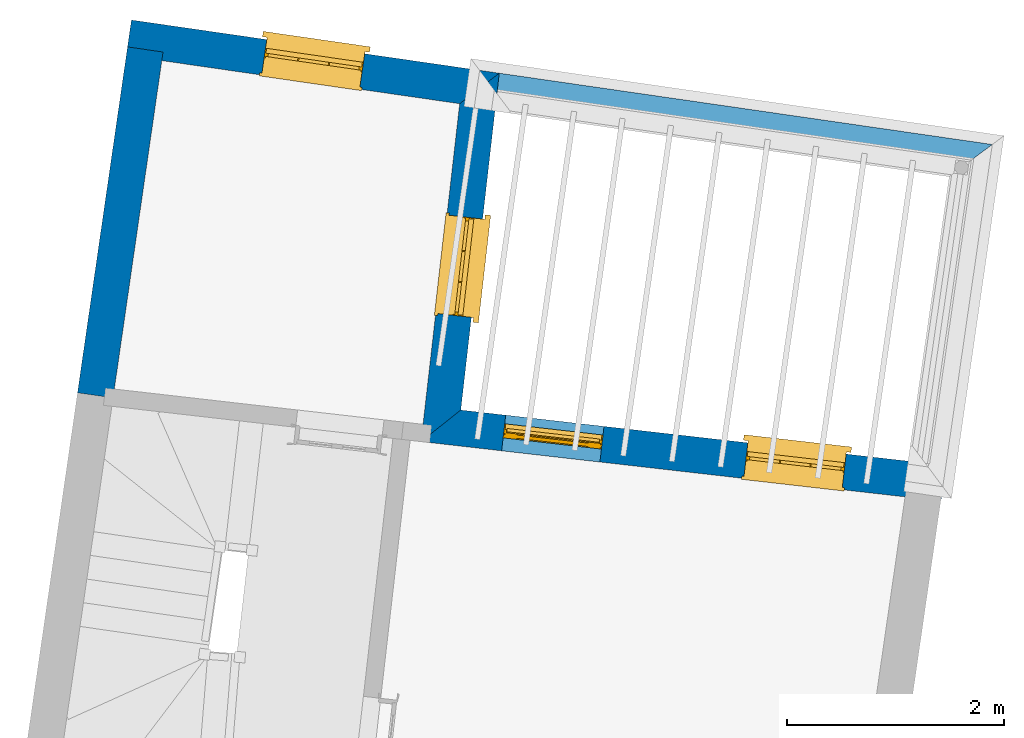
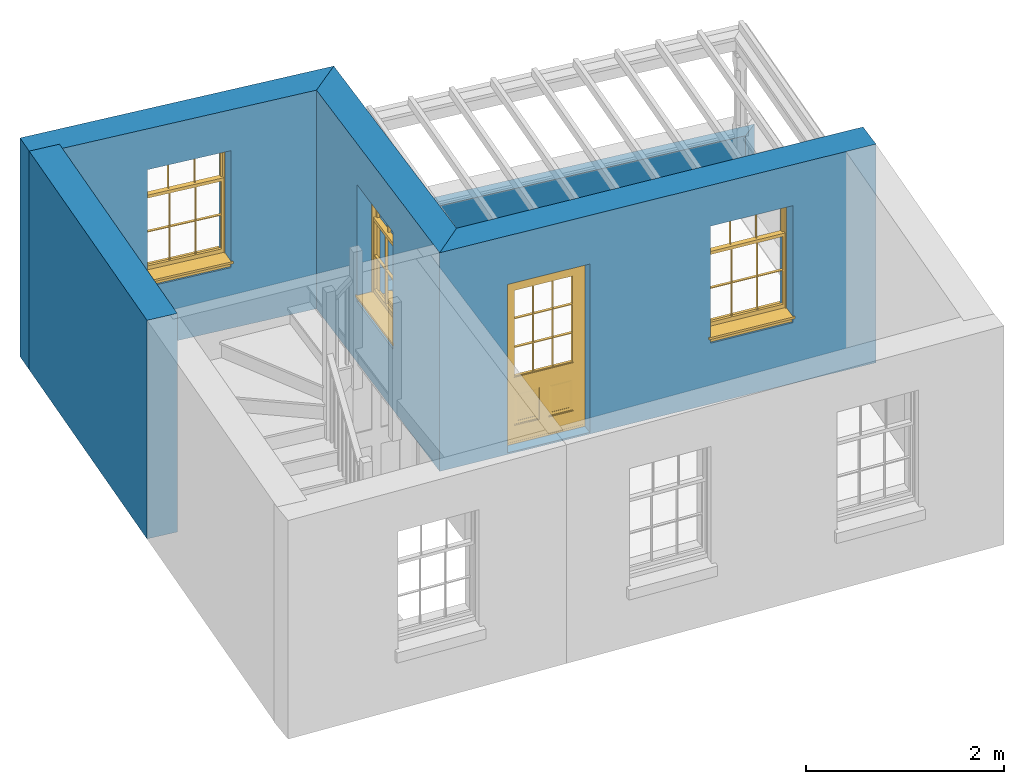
# One storey, part 3 of 5: 5 walls, 3 windows, 1 door, 4 openings.
"""IFC4 building model written with IfcOpenShell, lengths in metres."""

from ifc_helpers import new_model, si_unit, frame, origin, origin_with_axes, place, context, subcontext, project, spatial, polyline, outline, extrude, clip, halfspace, faceted_brep, source, transform, mapped, material, layer, layer_set, layer_usage, material_profile, profile_set, profile_usage, type_object, type_shapes, element, fill, save


model = new_model("IFC4")

# Units and contexts
model_context = context("Model", 3, world=origin_with_axes())
body_context = subcontext(model_context, "Body", "Model", "MODEL_VIEW")
ifc_project = project(units=[si_unit("PLANEANGLEUNIT", "RADIAN"), si_unit("MASSUNIT", "GRAM", prefix="KILO"), si_unit("FORCEUNIT", "NEWTON", prefix="KILO"), si_unit("LENGTHUNIT", "METRE"), si_unit("AREAUNIT", "SQUARE_METRE"), si_unit("VOLUMEUNIT", "CUBIC_METRE")], contexts=[model_context, model_context])

# Sites, building, storey
site_1_placement = place(None, origin_with_axes())
site_1 = spatial("IfcSite", under=ifc_project, at=site_1_placement, Name="Tamar")
site_2_placement = place(site_1_placement, origin_with_axes())
site_2 = spatial("IfcSite", under=site_1, at=site_2_placement, Name="Site plot-31", CompositionType="ELEMENT")
building_placement = place(None, origin_with_axes())
building = spatial("IfcBuilding", under=site_2, at=building_placement, Name="Building plot-31", CompositionType="ELEMENT")
storey_placement = place(None, frame((0.0, 0.0, 28.65), z_axis=(0.0, 0.0, 1.0), x_axis=(1.0, 0.0, 0.0)))
storey = spatial("IfcBuildingStorey", under=building, at=storey_placement, Name="plot-31 1", CompositionType="ELEMENT", Elevation=28.65)

# Wall, openings, door, window
ifc_material_1 = material(Name="Masonry")
ifc_layer_1 = layer(ifc_material_1, 0.33, ventilated=False)
ifc_layer_set_1 = layer_set([ifc_layer_1], Name="exterior_0.08_0.25")
ifc_layer_usage_1 = layer_usage(ifc_layer_set_1, "AXIS2", "POSITIVE", -0.25)
wall_type_1 = type_object("IfcWallType", Name="exterior_0.08_0.25", PredefinedType="SOLIDWALL", material=ifc_layer_set_1)
wall_1_placement = place(storey_placement, frame((300.42164854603, 260.541234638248, 0.0), z_axis=(0.0, 0.0, 1.0), x_axis=(-0.993538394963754, 0.113496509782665, 0.0)))
wall_1 = element("IfcWall", 1, at=wall_1_placement, inside=storey, type_object=wall_type_1, material=ifc_layer_usage_1, Name="exterior", context=body_context, shape_type="SweptSolid", body=[
    extrude(outline(polyline([(-0.249999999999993, 0.0800000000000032), (-0.249999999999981, -0.249999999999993), (4.2331522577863, -0.249999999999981), (4.56315225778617, 0.0800000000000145), (-0.249999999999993, 0.0800000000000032)])), origin_with_axes(), (0.0, 0.0, 1.0), 2.7),
])
opening_1_placement = place(wall_1_placement, frame((0.665788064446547, 0.0, 0.75)))
opening_1 = element("IfcOpeningElement", 2, at=opening_1_placement, cuts=wall_1, Name="My Opening", ObjectType="Opening", context=body_context, shape_type="SweptSolid", body=[
    extrude(outline(polyline([(0.0, -0.27000000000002), (0.909999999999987, -0.270000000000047), (0.910000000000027, 1.09999999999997), (3.97459842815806e-14, 1.1), (0.0, -0.27000000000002)])), origin_with_axes(), (0.0, 0.0, 1.0), 1.445),
])
opening_2_placement = place(wall_1_placement, frame((2.90736419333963, 0.0, 0.0199999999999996)))
opening_2 = element("IfcOpeningElement", 3, at=opening_2_placement, cuts=wall_1, Name="My Opening", ObjectType="Opening", context=body_context, shape_type="SweptSolid", body=[
    extrude(outline(polyline([(0.0, -0.269999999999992), (0.909999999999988, -0.270000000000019), (0.910000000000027, 1.1), (4.04121180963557e-14, 1.10000000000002), (0.0, -0.269999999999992)])), origin_with_axes(), (0.0, 0.0, 1.0), 2.08),
])
door_type = type_object("IfcDoorType", Name="door_panelled", OperationType="SINGLE_SWING_LEFT", PredefinedType="NOTDEFINED")
shared_shape_1 = source(origin(), body_context, "Body", "Brep", [
    faceted_brep([(0.545, 0.195, 0.265), (0.745, 0.195, 0.265), (0.745, 0.2, 0.265), (0.545, 0.2, 0.265), (0.745, 0.2, 0.58), (0.545, 0.2, 0.58), (0.545, 0.195, 0.58), (0.515, 0.19, 0.235), (0.775, 0.19, 0.235), (0.745, 0.195, 0.58), (0.515, 0.19, 0.61), (0.515, 0.185, 0.235), (0.775, 0.185, 0.235), (0.775, 0.19, 0.61), (0.515, 0.185, 0.61), (0.785, 0.185, 0.225), (0.505, 0.185, 0.225), (0.775, 0.185, 0.61), (0.505, 0.185, 0.62), (0.785, 0.185, 0.62), (0.505, 0.18, 0.225), (0.785, 0.18, 0.225), (0.505, 0.18, 0.62), (0.785, 0.18, 0.62), (0.883, 0.18, 0.075), (0.898, 0.18, 0.075), (0.405, 0.18, 0.62), (0.405, 0.18, 0.225), (0.027, 0.18, 0.075), (0.785, 0.18, 0.82), (0.125, 0.18, 0.82), (0.405, 0.185, 0.62), (0.405, 0.185, 0.225), (0.898, 0.18, 2.068), (0.027, 0.17, 0.075), (0.883, 0.17, 0.075), (0.125, 0.18, 0.225), (0.012, 0.18, 0.075), (0.785, 0.19, 0.82), (0.125, 0.19, 0.82), (0.125, 0.18, 0.62), (0.125, 0.185, 0.62), (0.395, 0.185, 0.61), (0.395, 0.185, 0.235), (0.125, 0.185, 0.225), (0.785, 0.18, 1.895), (0.027, 0.14, 0.045), (0.883, 0.14, 0.045), (0.558333, 0.19, 0.83), (0.351667, 0.19, 0.83), (0.125, 0.18, 1.895), (0.125, 0.19, 1.895), (0.785, 0.19, 1.895), (0.012, 0.18, 2.068), (0.135, 0.185, 0.61), (0.395, 0.19, 0.61), (0.395, 0.19, 0.235), (0.135, 0.185, 0.235), (0.027, 0.14, 0.027), (0.883, 0.14, 0.027), (0.568333, 0.19, 0.83), (0.558333, 0.22, 0.83), (0.351667, 0.22, 0.83), (0.341667, 0.19, 0.83), (0.135, 0.19, 1.185), (0.135, 0.19, 1.53), (0.775, 0.19, 1.53), (0.775, 0.19, 1.185), (0.135, 0.19, 0.61), (0.365, 0.195, 0.58), (0.365, 0.195, 0.265), (0.135, 0.19, 0.235), (0.568333, 0.19, 1.175), (0.558333, 0.19, 1.175), (0.775, 0.19, 0.83), (0.558333, 0.22, 1.175), (0.785, 0.22, 0.82), (0.125, 0.22, 0.82), (0.351667, 0.22, 1.175), (0.351667, 0.19, 1.175), (0.341667, 0.19, 1.175), (0.135, 0.19, 0.83), (0.135, 0.19, 1.175), (0.135, 0.22, 1.185), (0.135, 0.22, 1.53), (0.135, 0.19, 1.54), (0.351667, 0.19, 1.885), (0.558333, 0.19, 1.885), (0.775, 0.22, 1.53), (0.775, 0.22, 1.185), (0.775, 0.19, 1.175), (0.775, 0.19, 1.54), (0.165, 0.195, 0.58), (0.365, 0.2, 0.58), (0.365, 0.2, 0.265), (0.165, 0.195, 0.265), (0.568333, 0.22, 0.83), (0.568333, 0.22, 1.175), (0.568333, 0.19, 1.185), (0.558333, 0.19, 1.185), (0.775, 0.22, 0.83), (0.785, 0.23, 0.82), (0.125, 0.23, 0.82), (0.341667, 0.22, 0.83), (0.341667, 0.22, 1.175), (0.351667, 0.19, 1.185), (0.341667, 0.19, 1.185), (0.135, 0.22, 0.83), (0.341667, 0.22, 1.185), (0.125, 0.22, 1.895), (0.341667, 0.22, 1.53), (0.341667, 0.19, 1.53), (0.135, 0.19, 1.885), (0.341667, 0.19, 1.54), (0.341667, 0.19, 1.885), (0.558333, 0.22, 1.885), (0.351667, 0.22, 1.885), (0.568333, 0.19, 1.885), (0.785, 0.22, 1.895), (0.568333, 0.22, 1.185), (0.568333, 0.19, 1.53), (0.568333, 0.22, 1.53), (0.568333, 0.19, 1.54), (0.775, 0.19, 1.885), (0.165, 0.2, 0.58), (0.165, 0.2, 0.265), (0.775, 0.22, 1.175), (0.558333, 0.19, 1.53), (0.351667, 0.22, 1.185), (0.558333, 0.22, 1.185), (0.505, 0.23, 0.62), (0.405, 0.23, 0.62), (0.125, 0.23, 1.895), (0.785, 0.23, 1.895), (0.351667, 0.19, 1.53), (0.135, 0.22, 1.175), (0.135, 0.22, 1.54), (0.341667, 0.22, 1.54), (0.135, 0.22, 1.885), (0.351667, 0.19, 1.54), (0.558333, 0.22, 1.54), (0.558333, 0.19, 1.54), (0.351667, 0.22, 1.54), (0.775, 0.22, 1.54), (0.568333, 0.22, 1.54), (0.775, 0.22, 1.885), (0.558333, 0.22, 1.53), (0.405, 0.23, 0.225), (0.505, 0.23, 0.225), (0.125, 0.23, 0.62), (0.785, 0.23, 0.62), (0.012, 0.23, 2.068), (0.898, 0.23, 2.068), (0.351667, 0.22, 1.53), (0.341667, 0.22, 1.885), (0.568333, 0.22, 1.885), (0.405, 0.225, 0.225), (0.405, 0.225, 0.62), (0.505, 0.225, 0.62), (0.505, 0.225, 0.225), (0.898, 0.23, 0.027), (0.012, 0.23, 0.027), (0.125, 0.225, 0.62), (0.785, 0.225, 0.62), (0.395, 0.225, 0.235), (0.395, 0.225, 0.61), (0.125, 0.23, 0.225), (0.125, 0.225, 0.225), (0.515, 0.225, 0.61), (0.515, 0.225, 0.235), (0.785, 0.23, 0.225), (0.785, 0.225, 0.225), (0.135, 0.225, 0.61), (0.775, 0.225, 0.61), (0.135, 0.225, 0.235), (0.395, 0.22, 0.235), (0.395, 0.22, 0.61), (0.515, 0.22, 0.61), (0.515, 0.22, 0.235), (0.775, 0.225, 0.235), (0.135, 0.22, 0.61), (0.775, 0.22, 0.61), (0.135, 0.22, 0.235), (0.365, 0.215, 0.265), (0.365, 0.215, 0.58), (0.545, 0.215, 0.58), (0.545, 0.215, 0.265), (0.775, 0.22, 0.235), (0.165, 0.215, 0.58), (0.745, 0.215, 0.58), (0.165, 0.215, 0.265), (0.365, 0.21, 0.58), (0.365, 0.21, 0.265), (0.545, 0.21, 0.58), (0.545, 0.21, 0.265), (0.745, 0.215, 0.265), (0.165, 0.21, 0.58), (0.745, 0.21, 0.58), (0.165, 0.21, 0.265), (0.745, 0.21, 0.265), (0.885, 0.178, 0.025), (0.025, 0.178, 0.025), (0.025, 0.15, 0.025), (0.885, 0.15, 0.025), (0.9, 0.23, 0.025), (0.01, 0.23, 0.025), (0.9, 0.178, 0.025), (0.91, 0.23, 0.0), (0.0, 0.23, 0.0), (0.01, 0.178, 0.025), (0.9, 0.178, 2.07), (0.9, 0.23, 2.07), (0.885, 0.178, 2.055), (0.91, 0.23, 2.08), (0.01, 0.23, 2.07), (0.0, 0.23, 2.08), (0.01, 0.178, 2.07), (0.025, 0.178, 2.055), (0.0, 0.1, 2.08), (0.91, 0.1, 2.08), (0.01, 0.1, 2.07), (0.9, 0.1, 2.07), (0.01, 0.15, 2.07), (0.9, 0.15, 2.07), (0.0, 0.1, 0.0), (0.91, 0.1, 0.0), (0.01, 0.1, 0.025), (0.9, 0.1, 0.025), (0.01, 0.15, 0.025), (0.025, 0.15, 2.055), (0.9, 0.15, 0.025), (0.885, 0.15, 2.055), (0.898, 0.18, 0.027), (0.012, 0.18, 0.027), (0.883, 0.18, 0.027), (0.027, 0.18, 0.027)], [[[0, 1, 2, 3]], [[2, 4, 5, 3]], [[0, 3, 5, 6]], [[1, 0, 7, 8]], [[9, 4, 2, 1]], [[9, 6, 5, 4]], [[0, 6, 10, 7]], [[8, 7, 11, 12]], [[8, 13, 9, 1]], [[13, 10, 6, 9]], [[7, 10, 14, 11]], [[15, 12, 11, 16]], [[12, 17, 13, 8]], [[17, 14, 10, 13]], [[18, 16, 11, 14]], [[15, 19, 17, 12]], [[15, 16, 20, 21]], [[14, 17, 19, 18]], [[16, 18, 22, 20]], [[21, 23, 19, 15]], [[24, 25, 21, 20]], [[23, 22, 18, 19]], [[20, 22, 26, 27]], [[23, 21, 25]], [[28, 24, 20, 27]], [[22, 23, 29]], [[29, 30, 26, 22]], [[27, 26, 31, 32]], [[23, 25, 33, 29]], [[34, 35, 24, 28]], [[28, 27, 36, 37]], [[38, 39, 30, 29]], [[26, 30, 40]], [[26, 40, 41, 31]], [[42, 43, 32, 31]], [[32, 44, 36, 27]], [[33, 45, 29]], [[46, 47, 35, 34]], [[36, 40, 37]], [[39, 38, 48, 49]], [[50, 30, 39, 51]], [[29, 45, 52, 38]], [[53, 37, 40, 30]], [[44, 41, 40, 36]], [[31, 41, 54, 42]], [[43, 42, 55, 56]], [[57, 44, 32, 43]], [[50, 45, 33, 53]], [[47, 46, 58, 59]], [[60, 48, 38]], [[49, 48, 61, 62]], [[49, 63, 39]], [[50, 53, 30]], [[51, 39, 64, 65]], [[45, 50, 51, 52]], [[66, 67, 38, 52]], [[57, 54, 41, 44]], [[42, 54, 68, 55]], [[56, 55, 69, 70]], [[56, 71, 57, 43]], [[60, 72, 73, 48]], [[60, 38, 74]], [[48, 73, 75, 61]], [[76, 77, 62, 61]], [[62, 78, 79, 49]], [[49, 79, 80, 63]], [[63, 81, 39]], [[82, 64, 39]], [[65, 64, 83, 84]], [[85, 51, 65]], [[52, 51, 86, 87]], [[88, 89, 67, 66]], [[90, 38, 67]], [[91, 66, 52]], [[71, 68, 54, 57]], [[55, 68, 92, 69]], [[69, 93, 94, 70]], [[70, 95, 71, 56]], [[96, 97, 72, 60]], [[73, 72, 98, 99]], [[74, 38, 90]], [[100, 96, 60, 74]], [[75, 73, 79, 78]], [[61, 75, 97, 96]], [[101, 102, 77, 76]], [[77, 103, 62]], [[96, 76, 61]], [[103, 104, 78, 62]], [[80, 79, 105, 106]], [[63, 80, 104, 103]], [[81, 63, 103, 107]], [[81, 82, 39]], [[106, 64, 82, 80]], [[106, 108, 83, 64]], [[84, 83, 77, 109]], [[110, 111, 65, 84]], [[112, 51, 85]], [[113, 85, 65, 111]], [[114, 86, 51]], [[115, 87, 86, 116]], [[117, 52, 87]], [[118, 76, 89, 88]], [[119, 98, 67, 89]], [[120, 121, 88, 66]], [[67, 98, 72, 90]], [[91, 122, 120, 66]], [[91, 52, 123]], [[95, 92, 68, 71]], [[69, 92, 124, 93]], [[94, 93, 124, 125]], [[94, 125, 95, 70]], [[72, 97, 126, 90]], [[127, 99, 98, 120]], [[99, 105, 79, 73]], [[74, 90, 126, 100]], [[96, 100, 76]], [[128, 129, 75, 78]], [[97, 75, 129, 119]], [[130, 131, 102, 101]], [[109, 77, 102, 132]], [[133, 101, 76, 118]], [[77, 107, 103]], [[78, 104, 108, 128]], [[111, 106, 105, 134]], [[104, 80, 82, 135]], [[107, 135, 82, 81]], [[110, 108, 106, 111]], [[104, 135, 83, 108]], [[83, 135, 77]], [[136, 84, 109]], [[110, 84, 136, 137]], [[114, 51, 112]], [[85, 136, 138, 112]], [[113, 137, 136, 85]], [[111, 134, 139, 113]], [[86, 114, 113, 139]], [[140, 141, 87, 115]], [[139, 142, 116, 86]], [[109, 118, 115, 116]], [[117, 123, 52]], [[117, 87, 141, 122]], [[126, 89, 76]], [[143, 118, 88]], [[120, 98, 119, 121]], [[119, 89, 126, 97]], [[144, 143, 88, 121]], [[144, 122, 91, 143]], [[127, 120, 122, 141]], [[143, 91, 123, 145]], [[124, 92, 95, 125]], [[146, 129, 99, 127]], [[99, 129, 128, 105]], [[100, 126, 76]], [[121, 119, 129, 146]], [[147, 131, 130, 148]], [[131, 149, 102]], [[130, 101, 150]], [[102, 151, 132]], [[118, 109, 132, 133]], [[101, 133, 152]], [[107, 77, 135]], [[153, 128, 108, 110]], [[134, 105, 128, 153]], [[109, 138, 136]], [[153, 110, 137, 142]], [[154, 114, 112, 138]], [[137, 113, 114, 154]], [[141, 139, 134, 127]], [[141, 140, 142, 139]], [[144, 140, 115, 155]], [[142, 137, 154, 116]], [[155, 115, 118]], [[116, 154, 109]], [[117, 155, 145, 123]], [[122, 144, 155, 117]], [[143, 145, 118]], [[121, 146, 140, 144]], [[146, 127, 134, 153]], [[156, 157, 131, 147]], [[148, 130, 158, 159]], [[148, 160, 161, 147]], [[157, 162, 149, 131]], [[161, 151, 102, 149]], [[101, 152, 160, 150]], [[163, 158, 130, 150]], [[151, 152, 133, 132]], [[154, 138, 109]], [[142, 140, 146, 153]], [[145, 155, 118]], [[157, 156, 164, 165]], [[147, 166, 167, 156]], [[168, 169, 159, 158]], [[170, 148, 159, 171]], [[148, 170, 160]], [[166, 147, 161]], [[172, 162, 157, 165]], [[166, 149, 162, 167]], [[166, 161, 149]], [[150, 160, 170]], [[163, 173, 168, 158]], [[171, 163, 150, 170]], [[174, 164, 156, 167]], [[175, 176, 165, 164]], [[169, 168, 177, 178]], [[171, 159, 169, 179]], [[167, 162, 172, 174]], [[176, 180, 172, 165]], [[179, 173, 163, 171]], [[181, 177, 168, 173]], [[164, 174, 182, 175]], [[183, 184, 176, 175]], [[178, 177, 185, 186]], [[179, 169, 178, 187]], [[174, 172, 180, 182]], [[184, 188, 180, 176]], [[187, 181, 173, 179]], [[189, 185, 177, 181]], [[175, 182, 190, 183]], [[191, 184, 183, 192]], [[185, 193, 194, 186]], [[187, 178, 186, 195]], [[182, 180, 188, 190]], [[191, 196, 188, 184]], [[195, 189, 181, 187]], [[197, 193, 185, 189]], [[183, 190, 198, 192]], [[198, 196, 191, 192]], [[194, 193, 197, 199]], [[195, 186, 194, 199]], [[188, 196, 198, 190]], [[197, 189, 195, 199]], [[200, 201, 202, 203]], [[201, 200, 204, 205]], [[206, 204, 200]], [[204, 207, 208, 205]], [[209, 201, 205]], [[210, 211, 204, 206]], [[206, 200, 212, 210]], [[211, 213, 207, 204]], [[214, 205, 208, 215]], [[216, 217, 201, 209]], [[205, 214, 216, 209]], [[216, 214, 211, 210]], [[210, 212, 217, 216]], [[214, 215, 213, 211]], [[218, 219, 213, 215]], [[219, 218, 220, 221]], [[221, 220, 222, 223]], [[215, 208, 224, 218]], [[225, 224, 208, 207]], [[224, 226, 220, 218]], [[224, 225, 227, 226]], [[219, 225, 207, 213]], [[228, 222, 220, 226]], [[219, 221, 227, 225]], [[226, 227, 203, 202]], [[202, 229, 222, 228]], [[228, 226, 202]], [[227, 221, 223, 230]], [[230, 203, 227]], [[217, 229, 202, 201]], [[231, 223, 222, 229]], [[230, 223, 231, 203]], [[231, 229, 217, 212]], [[212, 200, 203, 231]], [[33, 152, 151, 53]], [[25, 160, 152, 33]], [[161, 37, 53, 151]], [[232, 160, 25]], [[161, 233, 37]], [[160, 232, 234]], [[24, 234, 232, 25]], [[233, 161, 235]], [[37, 233, 235, 28]], [[161, 160, 234, 235]], [[35, 47, 234, 24]], [[28, 235, 46, 34]], [[58, 235, 234, 59]], [[59, 234, 47]], [[58, 46, 235]]]),
])
type_shapes(door_type, [shared_shape_1])
door_placement = place(storey_placement, frame((297.563714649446, 261.139465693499, 0.0199999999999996), z_axis=(0.0, 0.0, 1.0), x_axis=(-0.904119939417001, 0.10328182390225, 0.0)))
door = element("IfcDoor", 4, at=door_placement, inside=storey, type_object=door_type, Name="bedroom outside door", OverallHeight=2.08, OverallWidth=0.91, context=body_context, shape_type="MappedRepresentation", body=[
    mapped(shared_shape_1, transform((0.0, 0.0, 0.0), scale=1.0)),
])
fill(opening_2, door)
window_type = type_object("IfcWindowType", Name="sash_shorter", PartitioningType="DOUBLE_PANEL_HORIZONTAL", PredefinedType="NOTDEFINED")
shared_shape_2 = source(origin(), body_context, "Body", "Brep", [
    faceted_brep([(0.876875, 0.145, 0.999097), (0.876875, 0.145, 1.411875), (0.9, 0.145, 1.435), (0.033125, 0.145, 1.411875), (0.033125, 0.145, 0.999097), (0.01, 0.145, 1.435), (0.033125, 0.115, 1.411875), (0.01, 0.115, 1.435), (0.033125, 0.115, 0.999097), (0.876875, 0.115, 1.411875), (0.876875, 0.115, 0.999097), (0.9, 0.115, 1.435), (0.033125, 0.145, 0.960972), (0.01, 0.145, 0.960972), (0.033125, 0.145, 0.548195), (0.876875, 0.145, 0.960972), (0.876875, 0.145, 0.548195), (0.9, 0.145, 0.960972), (0.876875, 0.145, 0.538195), (0.876875, 0.145, 0.125417), (0.9, 0.145, 0.077167), (0.033125, 0.145, 0.125417), (0.033125, 0.145, 0.538195), (0.01, 0.145, 0.077167), (0.9, 0.115, 0.960972), (0.01, 0.115, 0.960972), (-0.0425, 0.0, 0.01), (-0.0425, -0.05, 0.001667), (0.0, 0.0, 0.01), (0.9525, 0.0, 0.01), (0.91, 0.0, 0.01), (0.9525, -0.05, 0.001667), (-0.02, 0.33, 0.077167), (0.0, 0.33, 0.077167), (-0.02, 0.36, 0.077167), (0.0, 0.19, 0.077167), (0.01, 0.19, 0.077167), (0.91, 0.19, 0.077167), (0.91, 0.33, 0.077167), (0.9, 0.19, 0.077167), (0.93, 0.33, 0.077167), (0.93, 0.36, 0.077167), (0.01, 0.145, 0.999097), (0.01, 0.175, 0.999097), (0.9, 0.145, 0.999097), (0.9, 0.175, 0.999097), (0.876875, 0.175, 0.125417), (0.876875, 0.175, 0.538195), (0.9, 0.175, 0.077167), (0.876875, 0.175, 0.548195), (0.876875, 0.175, 0.960972), (0.033125, 0.175, 0.125417), (0.01, 0.175, 0.077167), (0.033125, 0.175, 0.538195), (0.033125, 0.175, 0.960972), (0.033125, 0.175, 0.548195), (-0.02, 0.33, 0.052167), (-0.02, 0.36, 0.052167), (0.93, 0.36, 0.052167), (0.93, 0.33, 0.052167), (0.91, 0.33, 0.052167), (0.0, 0.33, 0.052167), (0.91, 0.1, 0.026667), (0.0, 0.1, 0.026667), (-0.0425, -0.05, -0.123333), (0.9525, -0.05, -0.123333), (-0.0425, 0.0, -0.123333), (0.9525, 0.0, -0.123333), (0.01, 0.19, 1.435), (0.9, 0.19, 1.435), (0.0, 0.19, 1.445), (0.91, 0.19, 1.445), (0.01, 0.1, 0.077167), (0.9, 0.1, 0.077167), (0.592292, 0.145, 0.125417), (0.592292, 0.175, 0.125417), (0.317708, 0.175, 0.125417), (0.317708, 0.145, 0.125417), (0.592292, 0.145, 0.548195), (0.317708, 0.145, 0.548195), (0.317708, 0.145, 0.538195), (0.592292, 0.145, 0.538195), (0.592292, 0.175, 0.548195), (0.317708, 0.175, 0.548195), (0.602292, 0.175, 0.548195), (0.602292, 0.145, 0.548195), (0.317708, 0.175, 0.538195), (0.307708, 0.175, 0.125417), (0.307708, 0.175, 0.538195), (0.602292, 0.175, 0.538195), (0.602292, 0.175, 0.125417), (0.592292, 0.175, 0.538195), (0.307708, 0.175, 0.548195), (0.317708, 0.175, 0.960972), (0.307708, 0.175, 0.960972), (0.602292, 0.175, 0.960972), (0.592292, 0.175, 0.960972), (0.307708, 0.145, 0.538195), (0.307708, 0.145, 0.125417), (0.307708, 0.145, 0.548195), (0.307708, 0.145, 0.960972), (0.592292, 0.145, 0.960972), (0.317708, 0.145, 0.960972), (0.602292, 0.145, 0.960972), (0.602292, 0.145, 0.538195), (0.602292, 0.145, 0.125417), (0.317708, 0.115, 1.411875), (0.307708, 0.115, 1.411875), (0.307708, 0.115, 0.999097), (0.317708, 0.115, 0.999097), (0.602292, 0.115, 1.411875), (0.592292, 0.115, 1.411875), (0.592292, 0.115, 0.999097), (0.602292, 0.115, 0.999097), (0.317708, 0.145, 0.999097), (0.307708, 0.145, 0.999097), (0.307708, 0.145, 1.411875), (0.317708, 0.145, 1.411875), (0.602292, 0.145, 0.999097), (0.592292, 0.145, 0.999097), (0.592292, 0.145, 1.411875), (0.602292, 0.145, 1.411875), (0.91, 0.1, 1.445), (0.9, 0.1, 1.435), (0.01, 0.1, 1.435), (0.0, 0.1, 1.445), (0.91, 0.0, 0.0), (0.0, 0.0, 0.0), (0.91, 0.33, 0.0), (0.0, 0.33, 0.0)], [[[0, 1, 2]], [[3, 4, 5]], [[6, 7, 8]], [[9, 10, 11]], [[12, 13, 14]], [[15, 16, 17]], [[18, 19, 20]], [[21, 22, 23]], [[24, 15, 17]], [[13, 12, 25]], [[26, 27, 28]], [[29, 30, 31]], [[32, 33, 34]], [[35, 36, 33]], [[37, 38, 39]], [[40, 41, 38]], [[42, 4, 43]], [[44, 45, 0]], [[46, 47, 48]], [[49, 50, 45]], [[51, 52, 53]], [[54, 55, 43]], [[38, 33, 36, 39]], [[41, 34, 33, 38]], [[56, 32, 34, 57]], [[57, 34, 41, 58]], [[58, 41, 40, 59]], [[57, 58, 60, 61]], [[52, 48, 39, 36]], [[62, 63, 28, 30]], [[27, 31, 30, 28]], [[27, 64, 65, 31]], [[66, 67, 65, 64]], [[2, 5, 68, 69]], [[68, 70, 71, 69]], [[20, 23, 72, 73]], [[73, 72, 63, 62]], [[74, 75, 76, 77]], [[78, 79, 80, 81]], [[78, 82, 83, 79]], [[16, 49, 84, 85]], [[86, 76, 87, 88]], [[89, 90, 75, 91]], [[92, 88, 53, 55]], [[82, 91, 86, 83]], [[93, 83, 92, 94]], [[95, 84, 82, 96]], [[89, 84, 49, 47]], [[97, 88, 87, 98]], [[22, 53, 88, 97]], [[81, 91, 75, 74]], [[80, 86, 91, 81]], [[77, 76, 86, 80]], [[99, 92, 55, 14]], [[100, 94, 92, 99]], [[101, 96, 82, 78]], [[79, 83, 93, 102]], [[85, 84, 95, 103]], [[104, 89, 47, 18]], [[105, 90, 89, 104]], [[104, 18, 16, 85]], [[80, 97, 98, 77]], [[104, 81, 74, 105]], [[103, 101, 78, 85]], [[99, 14, 22, 97]], [[102, 100, 99, 79]], [[106, 107, 108, 109]], [[110, 111, 112, 113]], [[114, 115, 116, 117]], [[118, 119, 120, 121]], [[107, 116, 115, 108]], [[111, 120, 119, 112]], [[109, 114, 117, 106]], [[113, 118, 121, 110]], [[85, 78, 81, 104]], [[84, 89, 91, 82]], [[83, 86, 88, 92]], [[79, 99, 97, 80]], [[109, 112, 119, 114]], [[102, 93, 96, 101]], [[106, 117, 120, 111]], [[98, 87, 51, 21]], [[6, 3, 116, 107]], [[110, 121, 1, 9]], [[19, 46, 90, 105]], [[26, 66, 64, 27]], [[29, 31, 65, 67]], [[25, 24, 112, 109]], [[11, 7, 106, 111]], [[75, 48, 52, 76]], [[43, 45, 96, 93]], [[45, 43, 114, 119]], [[5, 2, 120, 117]], [[24, 25, 102, 101]], [[42, 5, 4]], [[2, 44, 0]], [[49, 45, 48, 47]], [[52, 43, 55, 53]], [[14, 13, 23, 22]], [[20, 17, 16, 18]], [[24, 11, 10]], [[25, 8, 7]], [[8, 4, 3, 6]], [[9, 1, 0, 10]], [[15, 50, 49, 16]], [[18, 47, 46, 19]], [[21, 51, 53, 22]], [[14, 55, 54, 12]], [[44, 2, 69, 45]], [[68, 5, 42, 43]], [[36, 35, 70, 68]], [[39, 69, 71, 37]], [[62, 122, 123, 73]], [[63, 72, 124, 125]], [[8, 108, 115, 4]], [[113, 10, 0, 118]], [[94, 100, 12, 54]], [[17, 20, 73, 24]], [[72, 23, 13, 25]], [[52, 36, 68, 43]], [[69, 39, 48, 45]], [[11, 24, 73, 123]], [[7, 124, 72, 25]], [[23, 77, 98]], [[98, 21, 23]], [[105, 74, 20]], [[20, 19, 105]], [[20, 74, 77, 23]], [[113, 112, 24]], [[24, 10, 113]], [[25, 109, 108]], [[108, 8, 25]], [[110, 9, 11]], [[11, 111, 110]], [[7, 6, 107]], [[107, 106, 7]], [[5, 117, 116]], [[116, 3, 5]], [[121, 120, 2]], [[2, 1, 121]], [[11, 123, 124, 7]], [[122, 125, 124, 123]], [[43, 93, 94]], [[94, 54, 43]], [[96, 45, 95]], [[50, 95, 45]], [[15, 103, 95, 50]], [[48, 75, 90]], [[90, 46, 48]], [[87, 76, 52]], [[52, 51, 87]], [[103, 15, 24]], [[24, 101, 103]], [[100, 102, 25]], [[25, 12, 100]], [[115, 114, 43]], [[43, 4, 115]], [[118, 0, 45]], [[45, 119, 118]], [[71, 70, 125, 122]], [[70, 35, 63, 125]], [[122, 62, 37, 71]], [[126, 67, 66, 127]], [[60, 58, 59]], [[38, 60, 59, 40]], [[61, 56, 57]], [[32, 56, 61, 33]], [[61, 60, 128, 129]], [[62, 60, 38, 37]], [[126, 128, 60, 62]], [[33, 61, 63, 35]], [[61, 129, 127, 63]], [[128, 126, 127, 129]], [[28, 127, 66, 26]], [[63, 127, 28]], [[29, 67, 126, 30]], [[30, 126, 62]]]),
])
type_shapes(window_type, [shared_shape_2])
window_1_placement = place(storey_placement, frame((299.790806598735, 260.885054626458, 0.75), z_axis=(0.0, 0.0, 1.0), x_axis=(-0.904119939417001, 0.10328182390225, 0.0)))
window_1 = element("IfcWindow", 5, at=window_1_placement, inside=storey, type_object=window_type, Name="bedroom outside window", OverallHeight=1.445, OverallWidth=0.91, context=body_context, shape_type="MappedRepresentation", body=[
    mapped(shared_shape_2, transform((0.0, 0.0, 0.0), scale=1.0)),
])
fill(opening_1, window_1)

# Wall, opening, window
wall_2_placement = place(storey_placement, frame((295.967464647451, 261.050056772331, 0.0), z_axis=(0.0, 0.0, 1.0), x_axis=(0.113496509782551, 0.993538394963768, 0.0)))
wall_2 = element("IfcWall", 6, at=wall_2_placement, inside=storey, type_object=wall_type_1, material=ifc_layer_usage_1, Name="exterior", context=body_context, shape_type="SweptSolid", body=[
    extrude(outline(polyline([(-0.0800000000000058, 0.0800000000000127), (0.249999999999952, -0.249999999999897), (3.36822467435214, -0.249999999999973), (3.04793766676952, 0.0800000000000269), (-0.0800000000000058, 0.0800000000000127)])), origin_with_axes(), (0.0, 0.0, 1.0), 2.7),
])
opening_3_placement = place(wall_2_placement, frame((1.10779150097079, 0.0, 0.75)))
opening_3 = element("IfcOpeningElement", 7, at=opening_3_placement, cuts=wall_2, Name="My Opening", ObjectType="Opening", context=body_context, shape_type="SweptSolid", body=[
    extrude(outline(polyline([(0.0, -0.270000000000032), (0.909999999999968, -0.269999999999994), (0.909999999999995, 1.1), (2.77555756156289e-14, 1.09999999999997), (0.0, -0.270000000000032)])), origin_with_axes(), (0.0, 0.0, 1.0), 1.445),
])
window_2_placement = place(storey_placement, frame((296.361450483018, 262.120046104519, 0.75), z_axis=(0.0, 0.0, 1.0), x_axis=(0.10328182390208, 0.904119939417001, 0.0)))
window_2 = element("IfcWindow", 8, at=window_2_placement, inside=storey, type_object=window_type, Name="toilet outside window", OverallHeight=1.445, OverallWidth=0.91, context=body_context, shape_type="MappedRepresentation", body=[
    mapped(shared_shape_2, transform((0.0, 0.0, 0.0), scale=1.0)),
])
fill(opening_3, window_2)

wall_3_placement = place(storey_placement, frame((296.322207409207, 264.155443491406, 0.0), z_axis=(0.0, 0.0, 1.0), x_axis=(-0.989705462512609, 0.143119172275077, 0.0)))
wall_3 = element("IfcWall", 9, at=wall_3_placement, inside=storey, type_object=wall_type_1, material=ifc_layer_usage_1, Name="exterior", context=body_context, shape_type="SweptSolid", body=[
    extrude(outline(polyline([(0.0776453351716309, 0.0800000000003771), (-0.24264167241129, -0.249999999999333), (3.17549813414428, -0.249999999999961), (3.17549813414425, 0.0800000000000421), (0.0776453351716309, 0.0800000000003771)])), origin_with_axes(), (0.0, 0.0, 1.0), 2.7),
])
opening_4_placement = place(wall_3_placement, frame((1.00774906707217, 0.0, 0.75)))
opening_4 = element("IfcOpeningElement", 10, at=opening_4_placement, cuts=wall_3, Name="My Opening", ObjectType="Opening", context=body_context, shape_type="SweptSolid", body=[
    extrude(outline(polyline([(0.0, -0.269999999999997), (0.909999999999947, -0.269999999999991), (0.909999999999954, 1.10000000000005), (5.99520433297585e-15, 1.10000000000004), (0.0, -0.269999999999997)])), origin_with_axes(), (0.0, 0.0, 1.0), 1.445),
])
window_3_placement = place(storey_placement, frame((295.363474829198, 264.566892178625, 0.75), z_axis=(0.0, 0.0, 1.0), x_axis=(-0.900631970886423, 0.130238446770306, 0.0)))
window_3 = element("IfcWindow", 11, at=window_3_placement, inside=storey, type_object=window_type, Name="toilet outside window", OverallHeight=1.445, OverallWidth=0.91, context=body_context, shape_type="MappedRepresentation", body=[
    mapped(shared_shape_2, transform((0.0, 0.0, 0.0), scale=1.0)),
])
fill(opening_4, window_3)

# Walls
ifc_material_2 = material(Name="Masonry")
ifc_layer_2 = layer(ifc_material_2, 0.33, ventilated=False)
ifc_layer_set_2 = layer_set([ifc_layer_2], Name="party_0.08_0.25")
ifc_layer_usage_2 = layer_usage(ifc_layer_set_2, "AXIS2", "POSITIVE", -0.25)
wall_type_2 = type_object("IfcWallType", Name="party_0.08_0.25", PredefinedType="SOLIDWALL", material=ifc_layer_set_2)
wall_4_placement = place(storey_placement, frame((293.426825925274, 264.574138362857, 0.0), z_axis=(0.0, 0.0, 1.0), x_axis=(-0.143119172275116, -0.989705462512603, 0.0)))
element("IfcWall", 12, at=wall_4_placement, inside=storey, type_object=wall_type_2, material=ifc_layer_usage_2, Name="party", context=body_context, shape_type="SweptSolid", body=[
    extrude(outline(polyline([(1.47744398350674e-15, 0.0800000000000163), (-1.97466617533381e-14, -0.249999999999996), (3.21439066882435, -0.249999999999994), (3.21439066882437, 0.0800000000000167), (1.47744398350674e-15, 0.0800000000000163)])), origin_with_axes(), (0.0, 0.0, 1.0), 2.7),
])
ifc_material_profile = material_profile(None, outline(polyline([(0.25, 0.0), (0.25, 0.795), (0.09, 0.795), (0.09, 0.02), (-0.08, 0.02), (-0.08, 0.0), (0.25, 0.0)])))
ifc_profile_set = profile_set([ifc_material_profile])
ifc_profile_usage = profile_usage(ifc_profile_set)
wall_type_3 = type_object("IfcWallType", Name="parapet_0", PredefinedType="PARAPET", material=ifc_profile_set)
wall_5_placement = place(storey_placement, frame((295.639310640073, 264.254195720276, 0.0), z_axis=(0.989705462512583, -0.143119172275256, 0.0), x_axis=(0.143119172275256, 0.989705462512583, 0.0)))
element("IfcWall", 13, at=wall_5_placement, inside=storey, type_object=wall_type_3, material=ifc_profile_usage, Name="parapet_0", context=body_context, shape_type="Clipping", body=[
    clip(clip(extrude(outline(polyline([(0.25, 0.0), (0.25, 0.795), (0.09, 0.795), (0.09, 0.02), (-0.08, 0.02), (-0.08, 0.0), (0.25, 0.0)])), origin_with_axes(), (0.0, 0.0, 1.0), 6.26450186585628), halfspace(frame((0.0, 0.0, 5.26450186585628), z_axis=(0.707106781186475, 0.0, -0.70710678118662), x_axis=(0.0, 1.0, 0.0)), True)), halfspace(frame((0.0, 0.0, 1.0), z_axis=(-0.707106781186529, 0.0, -0.707106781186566), x_axis=(0.0, 1.0, 0.0)), False)),
])

save(model, "model.ifc")
